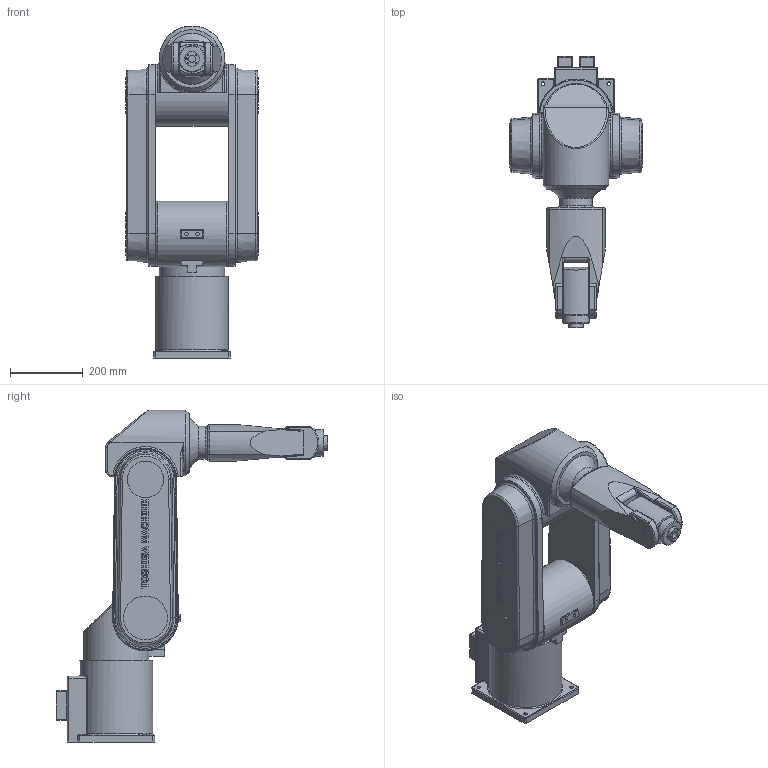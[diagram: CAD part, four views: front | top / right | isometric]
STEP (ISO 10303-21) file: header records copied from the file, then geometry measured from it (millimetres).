
FILE_DESCRIPTION((''),'2;1');
FILE_NAME('D:\Robotech\共用零件\TOSHIBA 手臂\TV 800\TV800.stp；.ste；.step','2012-11-15T17:04:53',('Allen'),(''),'Autodesk Inventor 2011','Autodesk Inventor 2011','');
FILE_SCHEMA(('AUTOMOTIVE_DESIGN { 1 0 10303 214 1 1 1 1 }'));
Length unit declared in the file: millimetre
Products named in the file (8): TV800; TV800底座; TV800第一軸; TV800第二軸; TV800第三軸; TV800第四軸; TV800第五軸; TV800第六軸
Assembly tree (7 placements, depth 2):
  TV800
    TV800底座
    TV800第一軸
    TV800第二軸
    TV800第三軸
    TV800第四軸
    TV800第五軸
    TV800第六軸
Bounding box: 362.1 x 745 x 910 mm (x, y, z)
Volume: 38589715.9 mm3; surface area: 1568224.4 mm2
Topology: 8 solids, 8 shells, 821 faces, 2090 edges, 1347 vertices
Faces by surface type: plane 434, bspline 187, cylinder 131, torus 51, cone 16, sphere 2
Full cylindrical faces by diameter (mm): 4.134 x4, 5 x1, 10 x6, 20 x1, 28.244 x1, 30 x1, 40 x1, 50 x2, 73 x1, 90 x1, 100 x3, 120 x2, 170 x1, 180 x3, 200 x1
Entity records: 28989 total; most frequent: CARTESIAN_POINT 9763, ORIENTED_EDGE 4068, DIRECTION 3220, EDGE_CURVE 2034, VERTEX_POINT 1335, VECTOR 1288, LINE 1288, AXIS2_PLACEMENT_3D 966
